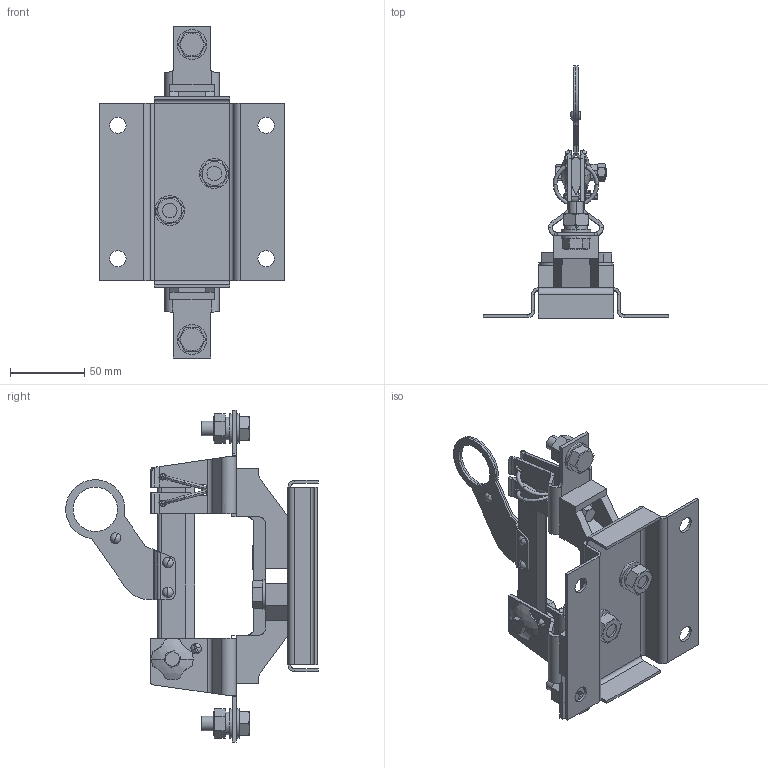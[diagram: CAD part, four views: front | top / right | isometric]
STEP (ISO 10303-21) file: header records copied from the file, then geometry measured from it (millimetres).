
FILE_DESCRIPTION (( 'STEP AP214' ), '1' );
FILE_NAME ('Ðàçúåäèíèòåëü ÐÅ19-37-11160-400À-ÓÕË3-ÊÝÀÇ.STEP', '2023-08-10T13:02:57', ( '' ), ( '' ), 'SwSTEP 2.0', 'SolidWorks 2018', '' );
FILE_SCHEMA (( 'AUTOMOTIVE_DESIGN' ));
Length unit declared in the file: millimetre
Products named in the file (1): Ðàçúåäèíèòåëü ÐÅ19-37-11160-400À-ÓÕË3-ÊÝÀÇ
Bounding box: 125 x 170.49 x 224 mm (x, y, z)
Surface area: 114337.8 mm2 (no closed solid volume)
Topology: 0 solids, 52 shells, 610 faces, 1662 edges, 1104 vertices
Faces by surface type: plane 328, cylinder 162, torus 50, cone 34, bspline 24, sphere 12
Entity records: 26947 total; most frequent: CARTESIAN_POINT 5198, DIRECTION 3166, ORIENTED_EDGE 2864, EDGE_CURVE 1662, AXIS2_PLACEMENT_3D 1183, VERTEX_POINT 1104, LINE 800, VECTOR 800
